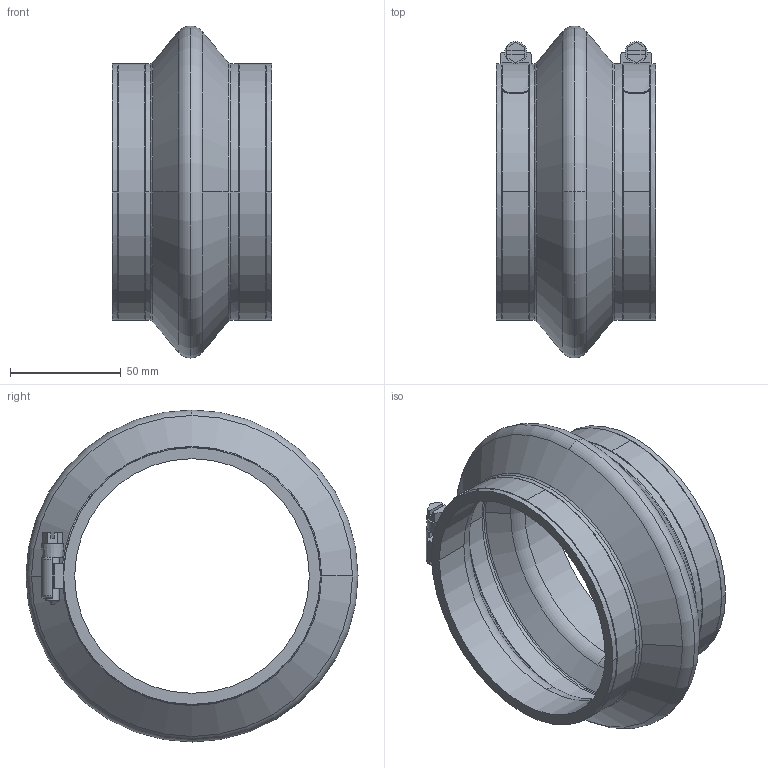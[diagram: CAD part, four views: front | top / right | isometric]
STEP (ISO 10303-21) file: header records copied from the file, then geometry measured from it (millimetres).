
FILE_DESCRIPTION((''),'2;1');
FILE_NAME('W:\212-187.stp','2004-01-08T10:46:03',('KAA'),(''),'Autodesk Inventor (R) 6.0','Autodesk Inventor (R) 6.0','');
FILE_SCHEMA(('CONFIG_CONTROL_DESIGN'));
Length unit declared in the file: millimetre
Products named in the file (1): 212-187
Bounding box: 72 x 150 x 150 mm (x, y, z)
Volume: 185761.6 mm3; surface area: 71501.7 mm2
Topology: 1 solids, 1 shells, 163 faces, 454 edges, 296 vertices
Faces by surface type: plane 63, cylinder 58, cone 16, torus 14, bspline 12
Entity records: 5877 total; most frequent: CARTESIAN_POINT 1492, DIRECTION 942, ORIENTED_EDGE 908, EDGE_CURVE 454, AXIS2_PLACEMENT_3D 360, VERTEX_POINT 296, VECTOR 222, LINE 222
